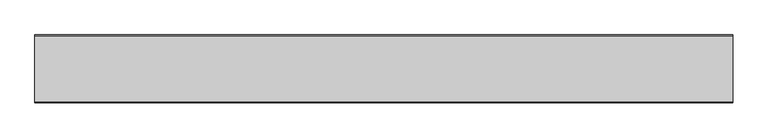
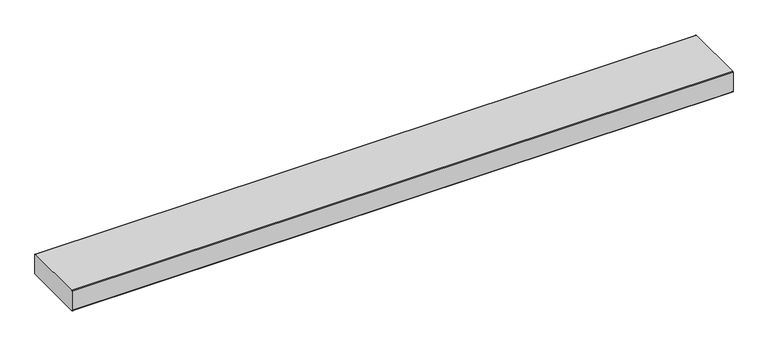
"""IFC4 building model written with IfcOpenShell, lengths in millimetres: duct fitting geometry, Кабель-канал DLP 65x195 -1, 2 или 3 секции - длина 2 м - белый : Кабель-канал DLP 65x195 -1, 2 или 3 секции - длина 2 м - белый."""

from ifc_helpers import new_model, si_unit, point, frame, frame_2d, origin, place, context, project, spatial, polyline, circle_curve, trimmed, segment, composite_curve, outline, extrude, source, transform, mapped, element, save


def duct_fitting_5722930a(model_context):
    return source(origin(), model_context, "Body", "SweptSolid", [
        extrude(outline(composite_curve([segment(trimmed(circle_curve(frame_2d((95.5, 63.0)), 2.0), [point((95.5, 65.0))], [point((97.5, 63.0))], False, "CARTESIAN"), True, "CONTINUOUS"), segment(polyline([(97.5, 63.0), (97.5, 2.0)]), True, "CONTINUOUS"), segment(trimmed(circle_curve(frame_2d((95.5, 2.0)), 2.0), [point((97.5, 2.0))], [point((95.5, 0.0))], False, "CARTESIAN"), True, "CONTINUOUS"), segment(polyline([(95.5, 0.0), (-95.5, 0.0)]), True, "CONTINUOUS"), segment(trimmed(circle_curve(frame_2d((-95.5, 2.0)), 2.0), [point((-95.5, 0.0))], [point((-97.5, 2.0))], False, "CARTESIAN"), True, "CONTINUOUS"), segment(polyline([(-97.5, 2.0), (-97.5, 63.0)]), True, "CONTINUOUS"), segment(trimmed(circle_curve(frame_2d((-95.5, 63.0)), 2.0), [point((-97.5, 63.0))], [point((-95.5, 65.0))], False, "CARTESIAN"), True, "CONTINUOUS"), segment(polyline([(-95.5, 65.0), (95.5, 65.0)]), True, "CONTINUOUS")], self_intersect=False)), frame((-1000.0, 0.0, 0.0), z_axis=(1.0, 0.0, 0.0), x_axis=(0.0, 1.0, 0.0)), (0.0, 0.0, 1.0), 2000.0),
    ])


if __name__ == "__main__":
    model = new_model("IFC4")
    model_context = context("Model", 3, world=origin())
    ifc_project = project(units=[si_unit("LENGTHUNIT", "METRE", prefix="MILLI")], contexts=[model_context])
    site = spatial("IfcSite", under=ifc_project)
    building = spatial("IfcBuilding", under=site)
    placement = place(None, origin())
    duct_fitting_shape = duct_fitting_5722930a(model_context)
    element("IfcDuctFitting", 1, ObjectType="Кабель-канал DLP 65x195 -1, 2 или 3 секции - длина 2 м - белый : Кабель-канал DLP 65x195 -1, 2 или 3 секции - длина 2 м - белый", at=placement, inside=building, context=model_context, shape_type="MappedRepresentation", body=[
        mapped(duct_fitting_shape, transform((0.0, 0.0, 0.0), x_axis=(1.0, 0.0, 0.0), y_axis=(0.0, 1.0, 0.0), z_axis=(0.0, 0.0, 1.0))),
    ])
    save(model, "model.ifc")
